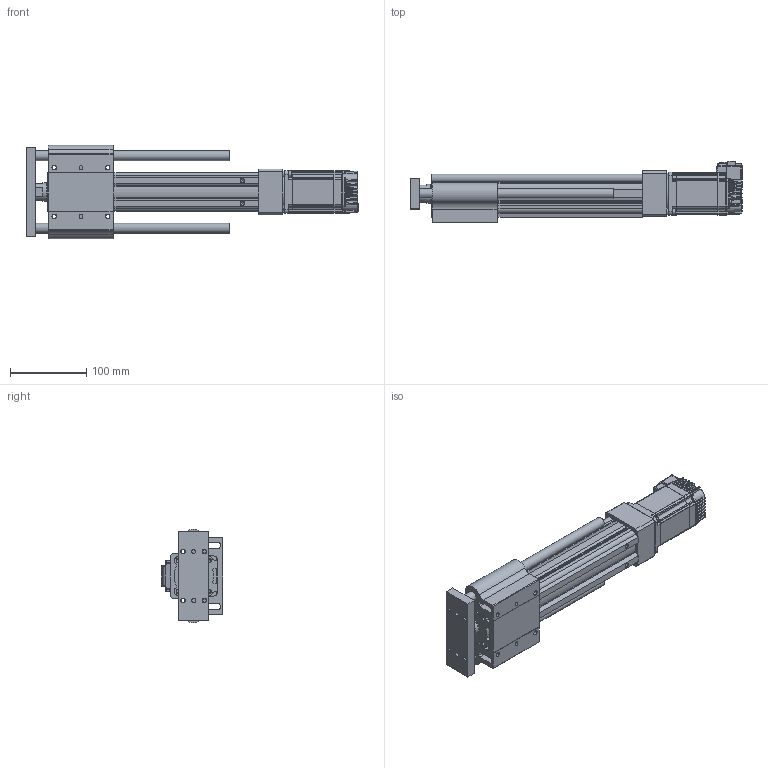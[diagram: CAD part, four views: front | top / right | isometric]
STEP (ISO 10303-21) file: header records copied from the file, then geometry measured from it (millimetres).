
FILE_DESCRIPTION (( 'STEP AP214' ), '1' );
FILE_NAME ('LEYG3(+)-32LDNM1□-150-23L.STEP', '2023-04-14T06:48:02', ( '' ), ( '' ), 'SwSTEP 2.0', 'SolidWorks 2019', '' );
FILE_SCHEMA (( 'AUTOMOTIVE_DESIGN' ));
Length unit declared in the file: millimetre
Products named in the file (6): LEY3(+)-32DNM1_MOTOR Flange; LEYG3(+)-32LDNM1□-150-23L; LEYG3(+)-32NM1?_BODY_150; CM3(+)-23L50A_2-M4_01; LEYG3(+)-32LNM1□_ATTACH_150; LEYG3(+)-32LNM1?_ROD_150
Assembly tree (5 placements, depth 2):
  LEYG3(+)-32LDNM1□-150-23L
    LEYG3(+)-32NM1?_BODY_150
    LEYG3(+)-32LNM1?_ROD_150
    LEYG3(+)-32LNM1□_ATTACH_150
    LEY3(+)-32DNM1_MOTOR Flange
    CM3(+)-23L50A_2-M4_01
Bounding box: 434.8 x 81.05 x 122.98 mm (x, y, z)
Volume: 1381828.4 mm3; surface area: 262175.3 mm2
Topology: 5 solids, 14 shells, 1518 faces, 3918 edges, 2430 vertices
Faces by surface type: plane 707, cylinder 466, bspline 133, cone 107, torus 58, sphere 47
Full cylindrical faces by diameter (mm): 2.5 x4, 3 x2, 3.2 x4, 4.2 x1, 4.5 x7, 4.9 x10, 5 x2, 6.2 x4, 6.35 x1, 7 x2, 8 x2, 13 x2, 24.5 x1, 25 x2, 32 x2, 38.1 x1
Entity records: 51618 total; most frequent: CARTESIAN_POINT 13066, ORIENTED_EDGE 7520, DIRECTION 7003, EDGE_CURVE 3760, VERTEX_POINT 2406, AXIS2_PLACEMENT_3D 2389, VECTOR 2225, LINE 2225
